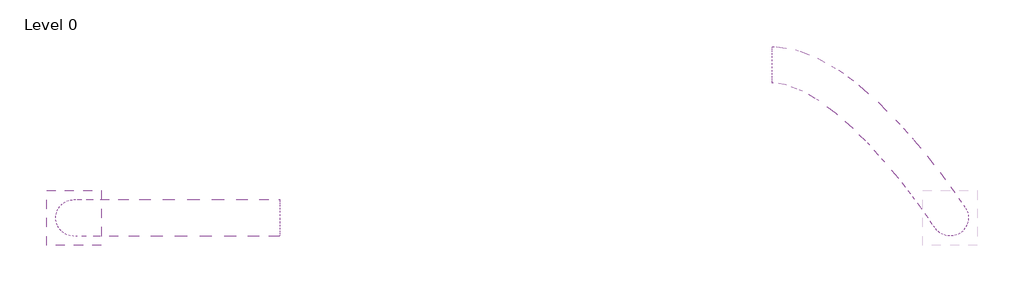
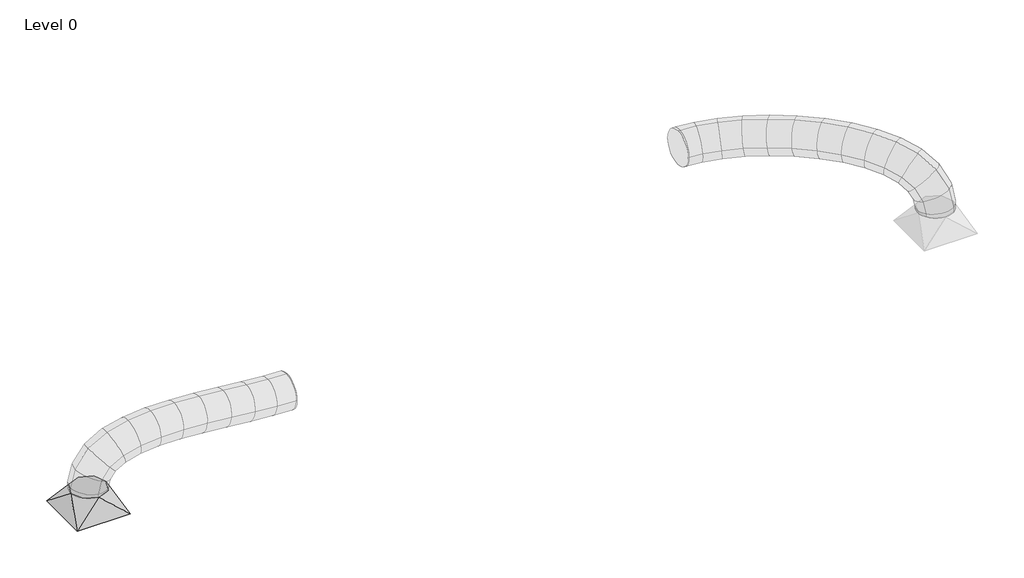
# One storey, part 1 of 2: 2 duct segments, 1 duct fitting.
"""IFC4 building model written with IfcOpenShell, lengths in millimetres."""

from ifc_helpers import new_model, si_unit, frame, origin, place, context, project, spatial, circle_curve, ellipse_curve, transform, mapped, element, save
from ifc_brep_helpers import plane_surface, cylinder_surface, advanced_brep
from components import rectangular_to_round_transition_angle_45_degree_9539f114

model = new_model("IFC4")

# Units and contexts
model_context = context("Model", 3, world=origin())
ifc_project = project(units=[si_unit("LENGTHUNIT", "METRE", prefix="MILLI")], contexts=[model_context])

# Site, building, storey
site = spatial("IfcSite", under=ifc_project)
building = spatial("IfcBuilding", under=site)
storey = spatial("IfcBuildingStorey", under=building, Name="Level 0", Elevation=0.0)

# Duct fitting
placement = place(None, origin())
rectangular_to_round_transition_angle_45_degree_shape = rectangular_to_round_transition_angle_45_degree_9539f114(model_context)
element("IfcDuctFitting", 1, ObjectType="Rectangular to Round Transition - Angle : 45 Degree", at=placement, inside=storey, context=model_context, shape_type="MappedRepresentation", body=[
    mapped(rectangular_to_round_transition_angle_45_degree_shape, transform((2118.6000023, 9114.8000005, 6789.25), x_axis=(0.0, 0.0, 1.0), y_axis=(-1.0, 0.0, 0.0), z_axis=(0.0, -1.0, 0.0))),
])

# Duct segments
element("IfcDuctSegment", 2, ObjectType="Flex - Round", at=placement, inside=storey, context=model_context, shape_type="AdvancedBrep", body=[
    advanced_brep(
    [(6006.3875023, 10070.4750005, 7100.4), (6006.3875023, 9968.8750005, 6998.8), (6006.3875023, 9867.2750005, 7100.4), (6006.3875023, 9968.8750005, 7202.0), (6028.5628095, 10070.4750005, 7100.4), (6022.7080285, 9968.8750005, 6998.8), (6012.285017, 9867.2750005, 7100.4), (6018.139798, 9968.8750005, 7202.0), (7081.4011792, 9168.8958189, 6911.892049), (7049.4958207, 9028.7988236, 6911.892049), (6909.3988254, 9060.7041821, 6911.892049), (6941.3041839, 9200.8011774, 6911.892049), (6135.9318061, 10053.1530182, 7105.2612739), (6116.5968848, 9953.7277871, 7003.0509426), (6083.2273661, 9855.8297775, 7103.612009), (6102.5622874, 9955.2550086, 7205.8223403), (6258.3528569, 10006.5839199, 7117.3482446), (6225.5142727, 9912.2954966, 7013.8046592), (6171.3253873, 9822.3171962, 7112.3101716), (6204.1639715, 9916.6056196, 7215.8537571), (6375.8518486, 9938.6289799, 7133.1280094), (6332.5687029, 9850.3811152, 7028.1817504), (6264.8877434, 9768.2058868, 7124.8753175), (6308.170889, 9856.4537515, 7229.8215764), (6487.9110527, 9855.2780852, 7149.6949871), (6436.4607516, 9773.1050424, 7043.5412854), (6360.8395347, 9696.8358666, 7139.0609545), (6412.2898357, 9779.0089094, 7245.2146563), (6594.2670049, 9761.240224, 7164.48802), (6535.7931179, 9685.2772991, 7057.3574088), (6455.851597, 9612.8280519, 7152.2761675), (6514.3254841, 9688.7909768, 7259.4067787), (6694.0342932, 9660.9989114, 7174.9859789), (6628.855614, 9591.7726352, 7067.1498595), (6547.2167141, 9521.0288319, 7161.8900124), (6612.3953933, 9590.2551081, 7269.7261318), (6785.9578479, 9559.0167212, 7178.6479491), (6713.6756039, 9497.6713096, 7070.5288442), (6632.5973273, 9426.3055374, 7165.2913307), (6704.8795712, 9487.650949, 7273.4104357), (6868.5734551, 9459.7846875, 7172.8930344), (6787.9853941, 9408.4156367, 7065.3525037), (6709.8650219, 9333.4970386, 7159.9089458), (6790.4530829, 9384.8660893, 7267.4494765), (6940.2875379, 9367.8397027, 7155.0819927), (6849.1299812, 9330.0218554, 7050.1665215), (6777.0207467, 9247.3963475, 7143.2300263), (6868.1783035, 9285.2141947, 7248.1454976), (6999.3833994, 9287.819828, 7122.5018618), (6894.1750156, 9269.0277702, 7025.33275), (6832.1885702, 9172.6953073, 7112.8154615), (6937.396954, 9191.487365, 7209.9845733), (7043.9353838, 9224.6315653, 7072.4696817), (6921.5313095, 9230.2282261, 6994.6114468), (6873.7015196, 9113.8173205, 7066.1961383), (6996.1055939, 9108.2206597, 7144.0543733), (7071.8175016, 9183.4909611, 7002.8792077), (6935.9918569, 9208.8914086, 6958.5196277), (6900.0929563, 9074.8762451, 7000.3262283), (7035.918601, 9049.4757976, 7044.6858083), (7081.4011792, 9168.8958189, 6931.2695514), (6941.3041839, 9200.8011774, 6918.8256894), (6909.3988254, 9060.7041821, 6930.7923693), (7049.4958207, 9028.7988236, 6943.2362313)],
    [
        (0, 1, circle_curve(frame((6006.3875023, 9968.8750005, 7100.4), z_axis=(-1.0, 0.0, 0.0), x_axis=(0.0, 1.0, 0.0)), 101.6)),
        (1, 2, circle_curve(frame((6006.3875023, 9968.8750005, 7100.4), z_axis=(-1.0, 0.0, 0.0), x_axis=(0.0, 1.0, 0.0)), 101.6)),
        (2, 3, circle_curve(frame((6006.3875023, 9968.8750005, 7100.4), z_axis=(-1.0, 0.0, 0.0), x_axis=(0.0, 1.0, 0.0)), 101.6)),
        (3, 0, circle_curve(frame((6006.3875023, 9968.8750005, 7100.4), z_axis=(-1.0, 0.0, 0.0), x_axis=(0.0, 1.0, 0.0)), 101.6)),
        (0, 4),
        (4, 5, ellipse_curve(frame((6020.4239132, 9968.8750005, 7100.4), z_axis=(-0.9965565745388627, 0.07983140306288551, -0.022404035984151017), x_axis=(-0.08291558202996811, -0.9594880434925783, 0.2692725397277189)), 101.9510609, 101.6)),
        (5, 1),
        (5, 6, ellipse_curve(frame((6020.4239132, 9968.8750005, 7100.4), z_axis=(-0.9965565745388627, 0.07983140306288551, -0.022404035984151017), x_axis=(-0.08291558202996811, -0.9594880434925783, 0.2692725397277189)), 101.9510609, 101.6)),
        (6, 2),
        (6, 7, ellipse_curve(frame((6020.4239132, 9968.8750005, 7100.4), z_axis=(-0.9965565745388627, 0.07983140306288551, -0.022404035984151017), x_axis=(-0.08291558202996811, -0.9594880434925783, 0.2692725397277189)), 101.9510609, 101.6)),
        (7, 3),
        (7, 4, ellipse_curve(frame((6020.4239132, 9968.8750005, 7100.4), z_axis=(-0.9965565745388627, 0.07983140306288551, -0.022404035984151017), x_axis=(-0.08291558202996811, -0.9594880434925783, 0.2692725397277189)), 101.9510609, 101.6)),
        (8, 9, circle_curve(frame((6995.4000023, 9114.8000005, 6911.892049), z_axis=(0.0, 0.0, -1.0), x_axis=(0.8464682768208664, 0.5324391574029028, 0.0)), 101.6)),
        (9, 10, circle_curve(frame((6995.4000023, 9114.8000005, 6911.892049), z_axis=(0.0, 0.0, -1.0), x_axis=(0.8464682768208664, 0.5324391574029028, 0.0)), 101.6)),
        (10, 11, circle_curve(frame((6995.4000023, 9114.8000005, 6911.892049), z_axis=(0.0, 0.0, -1.0), x_axis=(0.8464682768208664, 0.5324391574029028, 0.0)), 101.6)),
        (11, 8, circle_curve(frame((6995.4000023, 9114.8000005, 6911.892049), z_axis=(0.0, 0.0, -1.0), x_axis=(0.8464682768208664, 0.5324391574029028, 0.0)), 101.6)),
        (4, 12),
        (12, 13, ellipse_curve(frame((6109.5795861, 9954.4913978, 7104.4366415), z_axis=(-0.9637092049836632, 0.25797755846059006, -0.06864508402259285), x_axis=(-0.2668925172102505, -0.9366173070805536, 0.22697225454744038)), 102.1545905, 101.6)),
        (13, 5),
        (13, 14, ellipse_curve(frame((6109.5795861, 9954.4913978, 7104.4366415), z_axis=(-0.9637092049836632, 0.25797755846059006, -0.06864508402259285), x_axis=(-0.2668925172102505, -0.9366173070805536, 0.22697225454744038)), 102.1545905, 101.6)),
        (14, 6),
        (14, 15, ellipse_curve(frame((6109.5795861, 9954.4913978, 7104.4366415), z_axis=(-0.9637092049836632, 0.25797755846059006, -0.06864508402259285), x_axis=(-0.2668925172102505, -0.9366173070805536, 0.22697225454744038)), 102.1545905, 101.6)),
        (15, 7),
        (15, 12, ellipse_curve(frame((6109.5795861, 9954.4913978, 7104.4366415), z_axis=(-0.9637092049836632, 0.25797755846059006, -0.06864508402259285), x_axis=(-0.2668925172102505, -0.9366173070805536, 0.22697225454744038)), 102.1545905, 101.6)),
        (12, 16),
        (16, 17, ellipse_curve(frame((6214.8391221, 9914.4505581, 7114.8292081), z_axis=(-0.8982178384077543, 0.42706411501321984, -0.10402382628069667), x_axis=(-0.4385328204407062, -0.8867767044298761, 0.1460001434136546)), 101.9330645, 101.6)),
        (17, 13),
        (17, 18, ellipse_curve(frame((6214.8391221, 9914.4505581, 7114.8292081), z_axis=(-0.8982178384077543, 0.42706411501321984, -0.10402382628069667), x_axis=(-0.4385328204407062, -0.8867767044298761, 0.1460001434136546)), 101.9330645, 101.6)),
        (18, 14),
        (18, 19, ellipse_curve(frame((6214.8391221, 9914.4505581, 7114.8292081), z_axis=(-0.8982178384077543, 0.42706411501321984, -0.10402382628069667), x_axis=(-0.4385328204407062, -0.8867767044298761, 0.1460001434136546)), 101.9330645, 101.6)),
        (19, 15),
        (19, 16, ellipse_curve(frame((6214.8391221, 9914.4505581, 7114.8292081), z_axis=(-0.8982178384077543, 0.42706411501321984, -0.10402382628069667), x_axis=(-0.4385328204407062, -0.8867767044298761, 0.1460001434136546)), 101.9330645, 101.6)),
        (16, 20),
        (20, 21, ellipse_curve(frame((6320.369796, 9853.4174333, 7129.0016634), z_axis=(-0.8296834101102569, 0.5458722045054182, -0.11682882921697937), x_axis=(-0.5515163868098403, -0.8339169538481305, 0.020302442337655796)), 101.7664973, 101.6)),
        (21, 17),
        (21, 22, ellipse_curve(frame((6320.369796, 9853.4174333, 7129.0016634), z_axis=(-0.8296834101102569, 0.5458722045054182, -0.11682882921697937), x_axis=(-0.5515163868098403, -0.8339169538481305, 0.020302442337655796)), 101.7664973, 101.6)),
        (22, 18),
        (22, 23, ellipse_curve(frame((6320.369796, 9853.4174333, 7129.0016634), z_axis=(-0.8296834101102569, 0.5458722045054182, -0.11682882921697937), x_axis=(-0.5515163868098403, -0.8339169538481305, 0.020302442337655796)), 101.7664973, 101.6)),
        (23, 19),
        (23, 20, ellipse_curve(frame((6320.369796, 9853.4174333, 7129.0016634), z_axis=(-0.8296834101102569, 0.5458722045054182, -0.11682882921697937), x_axis=(-0.5515163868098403, -0.8339169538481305, 0.020302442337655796)), 101.7664973, 101.6)),
        (20, 24),
        (24, 25, ellipse_curve(frame((6424.3752937, 9776.0569759, 7144.3779708), z_axis=(-0.7716567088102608, 0.6263106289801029, -0.11081931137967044), x_axis=(-0.6069045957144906, -0.7771764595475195, -0.16632366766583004)), 101.692167, 101.6)),
        (25, 21),
        (25, 26, ellipse_curve(frame((6424.3752937, 9776.0569759, 7144.3779708), z_axis=(-0.7716567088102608, 0.6263106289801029, -0.11081931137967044), x_axis=(-0.6069045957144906, -0.7771764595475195, -0.16632366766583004)), 101.692167, 101.6)),
        (26, 22),
        (26, 27, ellipse_curve(frame((6424.3752937, 9776.0569759, 7144.3779708), z_axis=(-0.7716567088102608, 0.6263106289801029, -0.11081931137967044), x_axis=(-0.6069045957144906, -0.7771764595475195, -0.16632366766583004)), 101.692167, 101.6)),
        (27, 23),
        (27, 24, ellipse_curve(frame((6424.3752937, 9776.0569759, 7144.3779708), z_axis=(-0.7716567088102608, 0.6263106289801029, -0.11081931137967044), x_axis=(-0.6069045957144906, -0.7771764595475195, -0.16632366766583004)), 101.692167, 101.6)),
        (24, 28),
        (28, 29, ellipse_curve(frame((6525.059301, 9687.0341379, 7158.3820937), z_axis=(-0.7247541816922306, 0.6832499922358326, -0.08888658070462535), x_axis=(-0.5937968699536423, -0.6848196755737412, -0.4224065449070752)), 101.6624813, 101.6)),
        (29, 25),
        (29, 30, ellipse_curve(frame((6525.059301, 9687.0341379, 7158.3820937), z_axis=(-0.7247541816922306, 0.6832499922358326, -0.08888658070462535), x_axis=(-0.5937968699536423, -0.6848196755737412, -0.4224065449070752)), 101.6624813, 101.6)),
        (30, 26),
        (30, 31, ellipse_curve(frame((6525.059301, 9687.0341379, 7158.3820937), z_axis=(-0.7247541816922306, 0.6832499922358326, -0.08888658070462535), x_axis=(-0.5937968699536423, -0.6848196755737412, -0.4224065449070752)), 101.6624813, 101.6)),
        (31, 27),
        (31, 28, ellipse_curve(frame((6525.059301, 9687.0341379, 7158.3820937), z_axis=(-0.7247541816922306, 0.6832499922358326, -0.08888658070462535), x_axis=(-0.5937968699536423, -0.6848196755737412, -0.4224065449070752)), 101.6624813, 101.6)),
        (28, 32),
        (32, 33, ellipse_curve(frame((6620.6255037, 9591.0138717, 7168.4379956), z_axis=(-0.6867933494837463, 0.725105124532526, -0.05037314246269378), x_axis=(-0.4996360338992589, -0.5212978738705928, -0.6918181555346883)), 101.6595752, 101.6)),
        (33, 29),
        (33, 34, ellipse_curve(frame((6620.6255037, 9591.0138717, 7168.4379956), z_axis=(-0.6867933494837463, 0.725105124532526, -0.05037314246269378), x_axis=(-0.4996360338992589, -0.5212978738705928, -0.6918181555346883)), 101.6595752, 101.6)),
        (34, 30),
        (34, 35, ellipse_curve(frame((6620.6255037, 9591.0138717, 7168.4379956), z_axis=(-0.6867933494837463, 0.725105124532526, -0.05037314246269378), x_axis=(-0.4996360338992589, -0.5212978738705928, -0.6918181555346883)), 101.6595752, 101.6)),
        (35, 31),
        (35, 32, ellipse_curve(frame((6620.6255037, 9591.0138717, 7168.4379956), z_axis=(-0.6867933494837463, 0.725105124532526, -0.05037314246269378), x_axis=(-0.4996360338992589, -0.5212978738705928, -0.6918181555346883)), 101.6595752, 101.6)),
        (32, 36),
        (36, 37, ellipse_curve(frame((6709.2775876, 9492.6611293, 7171.9696399), z_axis=(-0.6547825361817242, 0.7557644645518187, 0.008938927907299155), x_axis=(-0.370149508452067, -0.31033541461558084, -0.8756033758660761)), 101.6840509, 101.6)),
        (37, 33),
        (37, 38, ellipse_curve(frame((6709.2775876, 9492.6611293, 7171.9696399), z_axis=(-0.6547825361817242, 0.7557644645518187, 0.008938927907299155), x_axis=(-0.370149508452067, -0.31033541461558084, -0.8756033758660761)), 101.6840509, 101.6)),
        (38, 34),
        (38, 39, ellipse_curve(frame((6709.2775876, 9492.6611293, 7171.9696399), z_axis=(-0.6547825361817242, 0.7557644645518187, 0.008938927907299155), x_axis=(-0.370149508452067, -0.31033541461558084, -0.8756033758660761)), 101.6840509, 101.6)),
        (39, 35),
        (39, 36, ellipse_curve(frame((6709.2775876, 9492.6611293, 7171.9696399), z_axis=(-0.6547825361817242, 0.7557644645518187, 0.008938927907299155), x_axis=(-0.370149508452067, -0.31033541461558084, -0.8756033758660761)), 101.6840509, 101.6)),
        (36, 40),
        (40, 41, ellipse_curve(frame((6789.2192385, 9396.640863, 7166.4009901), z_axis=(-0.6245519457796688, 0.7748212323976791, 0.09791284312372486), x_axis=(-0.27990848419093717, -0.10503419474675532, -0.9542636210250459)), 101.7584648, 101.6)),
        (41, 37),
        (41, 42, ellipse_curve(frame((6789.2192385, 9396.640863, 7166.4009901), z_axis=(-0.6245519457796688, 0.7748212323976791, 0.09791284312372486), x_axis=(-0.27990848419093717, -0.10503419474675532, -0.9542636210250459)), 101.7584648, 101.6)),
        (42, 38),
        (42, 43, ellipse_curve(frame((6789.2192385, 9396.640863, 7166.4009901), z_axis=(-0.6245519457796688, 0.7748212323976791, 0.09791284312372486), x_axis=(-0.27990848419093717, -0.10503419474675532, -0.9542636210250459)), 101.7584648, 101.6)),
        (43, 39),
        (43, 40, ellipse_curve(frame((6789.2192385, 9396.640863, 7166.4009901), z_axis=(-0.6245519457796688, 0.7748212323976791, 0.09791284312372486), x_axis=(-0.27990848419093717, -0.10503419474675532, -0.9542636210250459)), 101.7584648, 101.6)),
        (40, 44),
        (44, 45, ellipse_curve(frame((6858.6541423, 9307.6180251, 7149.1560095), z_axis=(-0.588310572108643, 0.7746609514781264, 0.23192904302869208), x_axis=(-0.26035222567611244, 0.09008567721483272, -0.9613018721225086)), 101.9547891, 101.6)),
        (45, 41),
        (45, 46, ellipse_curve(frame((6858.6541423, 9307.6180251, 7149.1560095), z_axis=(-0.588310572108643, 0.7746609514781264, 0.23192904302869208), x_axis=(-0.26035222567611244, 0.09008567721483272, -0.9613018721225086)), 101.9547891, 101.6)),
        (46, 42),
        (46, 47, ellipse_curve(frame((6858.6541423, 9307.6180251, 7149.1560095), z_axis=(-0.588310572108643, 0.7746609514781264, 0.23192904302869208), x_axis=(-0.26035222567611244, 0.09008567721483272, -0.9613018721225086)), 101.9547891, 101.6)),
        (47, 43),
        (47, 44, ellipse_curve(frame((6858.6541423, 9307.6180251, 7149.1560095), z_axis=(-0.588310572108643, 0.7746609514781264, 0.23192904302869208), x_axis=(-0.26035222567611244, 0.09008567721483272, -0.9613018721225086)), 101.9547891, 101.6)),
        (44, 48),
        (48, 49, ellipse_curve(frame((6915.7859848, 9230.2575676, 7117.6586617), z_axis=(-0.528583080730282, 0.7314065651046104, 0.43086466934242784), x_axis=(-0.313262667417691, 0.3036735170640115, -0.8998049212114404)), 102.4552326, 101.6)),
        (49, 45),
        (49, 50, ellipse_curve(frame((6915.7859848, 9230.2575676, 7117.6586617), z_axis=(-0.528583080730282, 0.7314065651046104, 0.43086466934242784), x_axis=(-0.313262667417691, 0.3036735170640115, -0.8998049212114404)), 102.4552326, 101.6)),
        (50, 46),
        (50, 51, ellipse_curve(frame((6915.7859848, 9230.2575676, 7117.6586617), z_axis=(-0.528583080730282, 0.7314065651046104, 0.43086466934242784), x_axis=(-0.313262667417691, 0.3036735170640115, -0.8998049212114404)), 102.4552326, 101.6)),
        (51, 47),
        (51, 48, ellipse_curve(frame((6915.7859848, 9230.2575676, 7117.6586617), z_axis=(-0.528583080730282, 0.7314065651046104, 0.43086466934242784), x_axis=(-0.313262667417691, 0.3036735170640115, -0.8998049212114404)), 102.4552326, 101.6)),
        (48, 52),
        (52, 53, ellipse_curve(frame((6958.8184517, 9169.2244429, 7069.33291), z_axis=(-0.41219711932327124, 0.5941161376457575, 0.6907384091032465), x_axis=(-0.4214099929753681, 0.547846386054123, -0.7226880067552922)), 103.4273189, 101.6)),
        (53, 49),
        (53, 54, ellipse_curve(frame((6958.8184517, 9169.2244429, 7069.33291), z_axis=(-0.41219711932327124, 0.5941161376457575, 0.6907384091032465), x_axis=(-0.4214099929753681, 0.547846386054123, -0.7226880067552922)), 103.4273189, 101.6)),
        (54, 50),
        (54, 55, ellipse_curve(frame((6958.8184517, 9169.2244429, 7069.33291), z_axis=(-0.41219711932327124, 0.5941161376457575, 0.6907384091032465), x_axis=(-0.4214099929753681, 0.547846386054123, -0.7226880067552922)), 103.4273189, 101.6)),
        (55, 51),
        (55, 52, ellipse_curve(frame((6958.8184517, 9169.2244429, 7069.33291), z_axis=(-0.41219711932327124, 0.5941161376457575, 0.6907384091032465), x_axis=(-0.4214099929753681, 0.547846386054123, -0.7226880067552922)), 103.4273189, 101.6)),
        (52, 56),
        (56, 57, ellipse_curve(frame((6985.955229, 9129.1836031, 7001.602718), z_axis=(-0.23223866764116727, 0.345810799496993, 0.9091095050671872), x_axis=(-0.5175713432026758, 0.7474150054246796, -0.41652216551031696)), 103.4722856, 101.6)),
        (57, 53),
        (57, 58, ellipse_curve(frame((6985.955229, 9129.1836031, 7001.602718), z_axis=(-0.23223866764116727, 0.345810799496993, 0.9091095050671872), x_axis=(-0.5175713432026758, 0.7474150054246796, -0.41652216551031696)), 103.4722856, 101.6)),
        (58, 54),
        (58, 59, ellipse_curve(frame((6985.955229, 9129.1836031, 7001.602718), z_axis=(-0.23223866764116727, 0.345810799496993, 0.9091095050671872), x_axis=(-0.5175713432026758, 0.7474150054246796, -0.41652216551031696)), 103.4722856, 101.6)),
        (59, 55),
        (59, 56, ellipse_curve(frame((6985.955229, 9129.1836031, 7001.602718), z_axis=(-0.23223866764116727, 0.345810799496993, 0.9091095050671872), x_axis=(-0.5175713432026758, 0.7474150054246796, -0.41652216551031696)), 103.4722856, 101.6)),
        (56, 60),
        (60, 61, ellipse_curve(frame((6995.4000023, 9114.8000005, 6931.0309603), z_axis=(-0.06547907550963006, 0.09971917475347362, 0.9928587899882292), x_axis=(-0.544961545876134, 0.8299310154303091, -0.11929552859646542)), 102.3307655, 101.6)),
        (61, 57),
        (61, 62, ellipse_curve(frame((6995.4000023, 9114.8000005, 6931.0309603), z_axis=(-0.06547907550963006, 0.09971917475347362, 0.9928587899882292), x_axis=(-0.544961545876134, 0.8299310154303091, -0.11929552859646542)), 102.3307655, 101.6)),
        (62, 58),
        (62, 63, ellipse_curve(frame((6995.4000023, 9114.8000005, 6931.0309603), z_axis=(-0.06547907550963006, 0.09971917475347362, 0.9928587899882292), x_axis=(-0.544961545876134, 0.8299310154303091, -0.11929552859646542)), 102.3307655, 101.6)),
        (63, 59),
        (63, 60, ellipse_curve(frame((6995.4000023, 9114.8000005, 6931.0309603), z_axis=(-0.06547907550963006, 0.09971917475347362, 0.9928587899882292), x_axis=(-0.544961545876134, 0.8299310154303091, -0.11929552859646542)), 102.3307655, 101.6)),
        (60, 8),
        (11, 61),
        (10, 62),
        (9, 63),
    ],
    [
        plane_surface(frame((6006.3875023, 9968.8750005, 6998.8), z_axis=(-1.0, 0.0, 0.0), x_axis=(0.0, 1.0, 0.0))),
        cylinder_surface(frame((6006.3875023, 9968.8750005, 7100.4), z_axis=(-1.0, 0.0, 0.0), x_axis=(0.0, 1.0, 0.0)), 101.6),
        plane_surface(frame((6995.4000023, 9013.2000005, 6911.892049), z_axis=(0.0, 0.0, -1.0), x_axis=(-1.0, 0.0, 0.0))),
        cylinder_surface(frame((6020.4239132, 9968.8750005, 7100.4), z_axis=(-0.986250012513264, 0.15911301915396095, -0.04465377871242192), x_axis=(0.15911301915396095, 0.9872538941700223, 0.003577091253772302)), 101.6),
        cylinder_surface(frame((6109.5795861, 9954.4913978, 7104.4366415), z_axis=(-0.9307045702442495, 0.3540410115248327, -0.0918910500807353), x_axis=(0.3539848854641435, 0.9350881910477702, 0.0174578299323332)), 101.6),
        cylinder_surface(frame((6214.8391221, 9914.4505581, 7114.8292081), z_axis=(-0.8598612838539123, 0.4972963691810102, -0.11547681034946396), x_axis=(0.4969291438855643, 0.8671243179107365, 0.03401239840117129)), 101.6),
        cylinder_surface(frame((6320.369796, 9853.4174333, 7129.0016634), z_axis=(-0.796790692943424, 0.592661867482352, -0.11779856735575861), x_axis=(0.5916318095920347, 0.804816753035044, 0.047347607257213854)), 101.6),
        cylinder_surface(frame((6424.3752937, 9776.0569759, 7144.3779708), z_axis=(-0.7451239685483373, 0.658824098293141, -0.1036391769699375), x_axis=(0.6568855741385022, 0.7518539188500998, 0.05671884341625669)), 101.6),
        cylinder_surface(frame((6525.059301, 9687.0341379, 7158.3820937), z_axis=(-0.703493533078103, 0.7068360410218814, -0.07402472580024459), x_axis=(0.7041135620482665, 0.707330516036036, 0.06251106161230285)), 101.6),
        cylinder_surface(frame((6620.6255037, 9591.0138717, 7168.4379956), z_axis=(-0.6692882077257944, 0.7425243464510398, -0.026662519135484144), x_axis=(0.740046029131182, 0.6693936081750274, 0.06514654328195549)), 101.6),
        cylinder_surface(frame((6709.2775876, 9492.6611293, 7171.9696399), z_axis=(-0.6391943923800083, 0.7677551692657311, 0.04452559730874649), x_axis=(0.7687478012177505, 0.6362653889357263, 0.06475471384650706)), 101.6),
        cylinder_surface(frame((6789.2192385, 9396.640863, 7166.4009901), z_axis=(-0.6079643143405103, 0.7794740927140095, 0.15099513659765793), x_axis=(0.7927422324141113, 0.606497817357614, 0.0609930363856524)), 101.6),
        cylinder_surface(frame((6858.6541423, 9307.6180251, 7149.1560095), z_axis=(-0.5645623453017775, 0.7644563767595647, 0.3112487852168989), x_axis=(0.813447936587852, 0.5792334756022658, 0.052830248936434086)), 101.6),
        cylinder_surface(frame((6915.7859848, 9230.2575676, 7117.6586617), z_axis=(-0.48377924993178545, 0.6861460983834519, 0.5432873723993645), x_axis=(0.8308309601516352, 0.5551803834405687, 0.03866080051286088)), 101.6),
        cylinder_surface(frame((6958.8184517, 9169.2244429, 7069.33291), z_axis=(-0.3260498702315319, 0.481092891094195, 0.8137819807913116), x_axis=(0.8424384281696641, 0.5384500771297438, 0.019209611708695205)), 101.6),
        cylinder_surface(frame((6985.955229, 9129.1836031, 7001.602718), z_axis=(-0.13002295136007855, 0.1980141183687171, 0.9715371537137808), x_axis=(0.8461629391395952, 0.5329041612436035, 0.004629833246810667)), 101.6),
        cylinder_surface(frame((6995.4000023, 9114.8000005, 6931.0309603), z_axis=(0.0, 0.0, 1.0), x_axis=(0.8464682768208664, 0.5324391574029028, 0.0)), 101.6),
    ],
    [
        (0, [[1, 2, 3, 4]]),
        (1, [[-1, 5, 6, 7]]),
        (1, [[-2, -7, 8, 9]]),
        (1, [[-3, -9, 10, 11]]),
        (1, [[-4, -11, 12, -5]]),
        (2, [[13, 14, 15, 16]]),
        (3, [[-6, 17, 18, 19]]),
        (3, [[-8, -19, 20, 21]]),
        (3, [[-10, -21, 22, 23]]),
        (3, [[-12, -23, 24, -17]]),
        (4, [[-18, 25, 26, 27]]),
        (4, [[-20, -27, 28, 29]]),
        (4, [[-22, -29, 30, 31]]),
        (4, [[-24, -31, 32, -25]]),
        (5, [[-26, 33, 34, 35]]),
        (5, [[-28, -35, 36, 37]]),
        (5, [[-30, -37, 38, 39]]),
        (5, [[-32, -39, 40, -33]]),
        (6, [[-34, 41, 42, 43]]),
        (6, [[-36, -43, 44, 45]]),
        (6, [[-38, -45, 46, 47]]),
        (6, [[-40, -47, 48, -41]]),
        (7, [[-42, 49, 50, 51]]),
        (7, [[-44, -51, 52, 53]]),
        (7, [[-46, -53, 54, 55]]),
        (7, [[-48, -55, 56, -49]]),
        (8, [[-50, 57, 58, 59]]),
        (8, [[-52, -59, 60, 61]]),
        (8, [[-54, -61, 62, 63]]),
        (8, [[-56, -63, 64, -57]]),
        (9, [[-58, 65, 66, 67]]),
        (9, [[-60, -67, 68, 69]]),
        (9, [[-62, -69, 70, 71]]),
        (9, [[-64, -71, 72, -65]]),
        (10, [[-66, 73, 74, 75]]),
        (10, [[-68, -75, 76, 77]]),
        (10, [[-70, -77, 78, 79]]),
        (10, [[-72, -79, 80, -73]]),
        (11, [[-74, 81, 82, 83]]),
        (11, [[-76, -83, 84, 85]]),
        (11, [[-78, -85, 86, 87]]),
        (11, [[-80, -87, 88, -81]]),
        (12, [[-82, 89, 90, 91]]),
        (12, [[-84, -91, 92, 93]]),
        (12, [[-86, -93, 94, 95]]),
        (12, [[-88, -95, 96, -89]]),
        (13, [[-90, 97, 98, 99]]),
        (13, [[-92, -99, 100, 101]]),
        (13, [[-94, -101, 102, 103]]),
        (13, [[-96, -103, 104, -97]]),
        (14, [[-98, 105, 106, 107]]),
        (14, [[-100, -107, 108, 109]]),
        (14, [[-102, -109, 110, 111]]),
        (14, [[-104, -111, 112, -105]]),
        (15, [[-106, 113, 114, 115]]),
        (15, [[-108, -115, 116, 117]]),
        (15, [[-110, -117, 118, 119]]),
        (15, [[-112, -119, 120, -113]]),
        (16, [[-114, 121, -16, 122]]),
        (16, [[-116, -122, -15, 123]]),
        (16, [[-118, -123, -14, 124]]),
        (16, [[-120, -124, -13, -121]]),
    ],
),
])
element("IfcDuctSegment", 3, ObjectType="Flex - Round", at=placement, inside=storey, context=model_context, shape_type="AdvancedBrep", body=[
    advanced_brep(
    [(3263.1875023, 9013.2000005, 7100.4), (3263.1875023, 9114.8000005, 6998.8), (3263.1875023, 9216.4000005, 7100.4), (3263.1875023, 9114.8000005, 7202.0), (3259.3295058, 9013.2000005, 7100.4), (3257.3321548, 9114.8000005, 6998.8), (3259.3295058, 9216.4000005, 7100.4), (3261.3268568, 9114.8000005, 7202.0), (2118.6000023, 9013.2000005, 6911.892049), (2017.0000023, 9114.8000005, 6911.892049), (2118.6000023, 9216.4000005, 6911.892049), (2220.2000023, 9114.8000005, 6911.892049), (3149.3761625, 9013.2000005, 7104.7248096), (3143.147116, 9114.8000005, 7003.2912555), (3149.3761625, 9216.4000005, 7104.7248096), (3155.6052091, 9114.8000005, 7206.1583638), (3022.245915, 9013.2000005, 7115.3461478), (3013.0157506, 9114.8000005, 7014.1633278), (3022.245915, 9216.4000005, 7115.3461478), (3031.4760793, 9114.8000005, 7216.5289679), (2886.8869242, 9013.2000005, 7128.7343787), (2877.2747779, 9114.8000005, 7027.5893401), (2886.8869242, 9216.4000005, 7128.7343787), (2896.4990705, 9114.8000005, 7229.8794173), (2748.3893549, 9013.2000005, 7141.3598663), (2740.6813448, 9114.8000005, 7040.0412459), (2748.3893549, 9216.4000005, 7141.3598663), (2756.097365, 9114.8000005, 7242.6784866), (2611.8433717, 9013.2000005, 7149.6929746), (2608.5457531, 9114.8000005, 7048.1051976), (2611.8433717, 9216.4000005, 7149.6929746), (2615.1409904, 9114.8000005, 7251.2807517), (2482.3391394, 9013.2000005, 7150.2040679), (2486.82101, 9114.8000005, 7048.5855888), (2482.3391394, 9216.4000005, 7150.2040679), (2477.8572688, 9114.8000005, 7251.8225469), (2364.9668225, 9013.2000005, 7139.36351), (2382.3860887, 9114.8000005, 7038.9399344), (2364.9668225, 9216.4000005, 7139.36351), (2347.5475562, 9114.8000005, 7239.7870856), (2264.8165856, 9013.2000005, 7113.6416651), (2303.175591, 9114.8000005, 7018.5960969), (2264.8165856, 9216.4000005, 7113.6416651), (2226.4575802, 9114.8000005, 7208.6872333), (2186.9785936, 9013.2000005, 7069.5088973), (2255.1453081, 9114.8000005, 6991.3637741), (2186.9785936, 9216.4000005, 7069.5088973), (2118.811879, 9114.8000005, 7147.6540204), (2136.5430109, 9013.2000005, 7003.4355705), (2230.0486398, 9114.8000005, 6958.4857884), (2136.5430109, 9216.4000005, 7003.4355705), (2043.0373821, 9114.8000005, 7048.3853526), (2118.6000023, 9013.2000005, 6931.4343295), (2220.2000023, 9114.8000005, 6918.9654307), (2118.6000023, 9216.4000005, 6931.4343295), (2017.0000023, 9114.8000005, 6943.9032283)],
    [
        (0, 1, circle_curve(frame((3263.1875023, 9114.8000005, 7100.4), z_axis=(1.0, 0.0, 0.0), x_axis=(0.0, -1.0, 0.0)), 101.6)),
        (1, 2, circle_curve(frame((3263.1875023, 9114.8000005, 7100.4), z_axis=(1.0, 0.0, 0.0), x_axis=(0.0, -1.0, 0.0)), 101.6)),
        (2, 3, circle_curve(frame((3263.1875023, 9114.8000005, 7100.4), z_axis=(1.0, 0.0, 0.0), x_axis=(0.0, -1.0, 0.0)), 101.6)),
        (3, 0, circle_curve(frame((3263.1875023, 9114.8000005, 7100.4), z_axis=(1.0, 0.0, 0.0), x_axis=(0.0, -1.0, 0.0)), 101.6)),
        (0, 4),
        (4, 5, ellipse_curve(frame((3259.3295058, 9114.8000005, 7100.4), z_axis=(0.9998068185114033, 0.0, -0.019655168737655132), x_axis=(0.019655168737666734, 0.0, 0.9998068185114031)), 101.619631, 101.6)),
        (5, 1),
        (5, 6, ellipse_curve(frame((3259.3295058, 9114.8000005, 7100.4), z_axis=(0.9998068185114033, 0.0, -0.019655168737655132), x_axis=(0.019655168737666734, 0.0, 0.9998068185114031)), 101.619631, 101.6)),
        (6, 2),
        (6, 7, ellipse_curve(frame((3259.3295058, 9114.8000005, 7100.4), z_axis=(0.9998068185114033, 0.0, -0.019655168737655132), x_axis=(0.019655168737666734, 0.0, 0.9998068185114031)), 101.619631, 101.6)),
        (7, 3),
        (7, 4, ellipse_curve(frame((3259.3295058, 9114.8000005, 7100.4), z_axis=(0.9998068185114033, 0.0, -0.019655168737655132), x_axis=(0.019655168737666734, 0.0, 0.9998068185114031)), 101.619631, 101.6)),
        (8, 9, circle_curve(frame((2118.6000023, 9114.8000005, 6911.892049), z_axis=(0.0, 0.0, -1.0), x_axis=(0.0, -1.0, 0.0)), 101.6)),
        (9, 10, circle_curve(frame((2118.6000023, 9114.8000005, 6911.892049), z_axis=(0.0, 0.0, -1.0), x_axis=(0.0, -1.0, 0.0)), 101.6)),
        (10, 11, circle_curve(frame((2118.6000023, 9114.8000005, 6911.892049), z_axis=(0.0, 0.0, -1.0), x_axis=(0.0, -1.0, 0.0)), 101.6)),
        (11, 8, circle_curve(frame((2118.6000023, 9114.8000005, 6911.892049), z_axis=(0.0, 0.0, -1.0), x_axis=(0.0, -1.0, 0.0)), 101.6)),
        (4, 12),
        (12, 13, ellipse_curve(frame((3149.3761625, 9114.8000005, 7104.7248096), z_axis=(0.9981197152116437, 0.0, -0.06129464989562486), x_axis=(0.0612946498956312, 0.0, 0.9981197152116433)), 101.6246374, 101.6)),
        (13, 5),
        (13, 14, ellipse_curve(frame((3149.3761625, 9114.8000005, 7104.7248096), z_axis=(0.9981197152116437, 0.0, -0.06129464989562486), x_axis=(0.0612946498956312, 0.0, 0.9981197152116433)), 101.6246374, 101.6)),
        (14, 6),
        (14, 15, ellipse_curve(frame((3149.3761625, 9114.8000005, 7104.7248096), z_axis=(0.9981197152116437, 0.0, -0.06129464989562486), x_axis=(0.0612946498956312, 0.0, 0.9981197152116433)), 101.6246374, 101.6)),
        (15, 7),
        (15, 12, ellipse_curve(frame((3149.3761625, 9114.8000005, 7104.7248096), z_axis=(0.9981197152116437, 0.0, -0.06129464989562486), x_axis=(0.0612946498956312, 0.0, 0.9981197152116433)), 101.6246374, 101.6)),
        (12, 16),
        (16, 17, ellipse_curve(frame((3022.245915, 9114.8000005, 7115.3461478), z_axis=(0.9958650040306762, 0.0, -0.09084543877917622), x_axis=(0.09084543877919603, 0.0, 0.9958650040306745)), 101.6029478, 101.6)),
        (17, 13),
        (17, 18, ellipse_curve(frame((3022.245915, 9114.8000005, 7115.3461478), z_axis=(0.9958650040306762, 0.0, -0.09084543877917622), x_axis=(0.09084543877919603, 0.0, 0.9958650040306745)), 101.6029478, 101.6)),
        (18, 14),
        (18, 19, ellipse_curve(frame((3022.245915, 9114.8000005, 7115.3461478), z_axis=(0.9958650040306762, 0.0, -0.09084543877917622), x_axis=(0.09084543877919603, 0.0, 0.9958650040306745)), 101.6029478, 101.6)),
        (19, 15),
        (19, 16, ellipse_curve(frame((3022.245915, 9114.8000005, 7115.3461478), z_axis=(0.9958650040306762, 0.0, -0.09084543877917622), x_axis=(0.09084543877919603, 0.0, 0.9958650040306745)), 101.6029478, 101.6)),
        (16, 20),
        (20, 21, ellipse_curve(frame((2886.8869242, 9114.8000005, 7128.7343787), z_axis=(0.9955146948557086, 0.0, -0.09460704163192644), x_axis=(-0.09460704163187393, -1.0366990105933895e-12, -0.9955146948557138)), 101.6007489, 101.6)),
        (21, 17),
        (21, 22, ellipse_curve(frame((2886.8869242, 9114.8000005, 7128.7343787), z_axis=(0.9955146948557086, 0.0, -0.09460704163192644), x_axis=(-0.09460704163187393, -1.0366990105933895e-12, -0.9955146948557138)), 101.6007489, 101.6)),
        (22, 18),
        (22, 23, ellipse_curve(frame((2886.8869242, 9114.8000005, 7128.7343787), z_axis=(0.9955146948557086, 0.0, -0.09460704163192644), x_axis=(-0.09460704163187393, -1.0366990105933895e-12, -0.9955146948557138)), 101.6007489, 101.6)),
        (23, 19),
        (23, 20, ellipse_curve(frame((2886.8869242, 9114.8000005, 7128.7343787), z_axis=(0.9955146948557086, 0.0, -0.09460704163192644), x_axis=(-0.09460704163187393, -1.0366990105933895e-12, -0.9955146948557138)), 101.6007489, 101.6)),
        (20, 24),
        (24, 25, ellipse_curve(frame((2748.3893549, 9114.8000005, 7141.3598663), z_axis=(0.9971186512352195, 0.0, -0.07585773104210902), x_axis=(-0.0758577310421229, 0.0, -0.9971186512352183)), 101.6113982, 101.6)),
        (25, 21),
        (25, 26, ellipse_curve(frame((2748.3893549, 9114.8000005, 7141.3598663), z_axis=(0.9971186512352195, 0.0, -0.07585773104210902), x_axis=(-0.0758577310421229, 0.0, -0.9971186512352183)), 101.6113982, 101.6)),
        (26, 22),
        (26, 27, ellipse_curve(frame((2748.3893549, 9114.8000005, 7141.3598663), z_axis=(0.9971186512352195, 0.0, -0.07585773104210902), x_axis=(-0.0758577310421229, 0.0, -0.9971186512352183)), 101.6113982, 101.6)),
        (27, 23),
        (27, 24, ellipse_curve(frame((2748.3893549, 9114.8000005, 7141.3598663), z_axis=(0.9971186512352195, 0.0, -0.07585773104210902), x_axis=(-0.0758577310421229, 0.0, -0.9971186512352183)), 101.6113982, 101.6)),
        (24, 28),
        (28, 29, ellipse_curve(frame((2611.8433717, 9114.8000005, 7149.6929746), z_axis=(0.9994735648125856, 0.0, -0.032443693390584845), x_axis=(-0.03244369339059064, 0.0, -0.9994735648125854)), 101.6412846, 101.6)),
        (29, 25),
        (29, 30, ellipse_curve(frame((2611.8433717, 9114.8000005, 7149.6929746), z_axis=(0.9994735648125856, 0.0, -0.032443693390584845), x_axis=(-0.03244369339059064, 0.0, -0.9994735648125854)), 101.6412846, 101.6)),
        (30, 26),
        (30, 31, ellipse_curve(frame((2611.8433717, 9114.8000005, 7149.6929746), z_axis=(0.9994735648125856, 0.0, -0.032443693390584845), x_axis=(-0.03244369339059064, 0.0, -0.9994735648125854)), 101.6412846, 101.6)),
        (31, 27),
        (31, 28, ellipse_curve(frame((2611.8433717, 9114.8000005, 7149.6929746), z_axis=(0.9994735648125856, 0.0, -0.032443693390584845), x_axis=(-0.03244369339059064, 0.0, -0.9994735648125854)), 101.6412846, 101.6)),
        (28, 32),
        (32, 33, ellipse_curve(frame((2482.3391394, 9114.8000005, 7150.2040679), z_axis=(0.9990287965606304, 0.0, 0.04406204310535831), x_axis=(0.04406204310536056, 0.0, -0.9990287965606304)), 101.7172672, 101.6)),
        (33, 29),
        (33, 34, ellipse_curve(frame((2482.3391394, 9114.8000005, 7150.2040679), z_axis=(0.9990287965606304, 0.0, 0.04406204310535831), x_axis=(0.04406204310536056, 0.0, -0.9990287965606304)), 101.7172672, 101.6)),
        (34, 30),
        (34, 35, ellipse_curve(frame((2482.3391394, 9114.8000005, 7150.2040679), z_axis=(0.9990287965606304, 0.0, 0.04406204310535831), x_axis=(0.04406204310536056, 0.0, -0.9990287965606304)), 101.7172672, 101.6)),
        (35, 31),
        (35, 32, ellipse_curve(frame((2482.3391394, 9114.8000005, 7150.2040679), z_axis=(0.9990287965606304, 0.0, 0.04406204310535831), x_axis=(0.04406204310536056, 0.0, -0.9990287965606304)), 101.7172672, 101.6)),
        (32, 36),
        (36, 37, ellipse_curve(frame((2364.9668225, 9114.8000005, 7139.36351), z_axis=(0.98528735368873, 0.0, 0.17090591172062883), x_axis=(0.17090591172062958, 0.0, -0.9852873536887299)), 101.9231347, 101.6)),
        (37, 33),
        (37, 38, ellipse_curve(frame((2364.9668225, 9114.8000005, 7139.36351), z_axis=(0.98528735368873, 0.0, 0.17090591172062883), x_axis=(0.17090591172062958, 0.0, -0.9852873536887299)), 101.9231347, 101.6)),
        (38, 34),
        (38, 39, ellipse_curve(frame((2364.9668225, 9114.8000005, 7139.36351), z_axis=(0.98528735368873, 0.0, 0.17090591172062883), x_axis=(0.17090591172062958, 0.0, -0.9852873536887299)), 101.9231347, 101.6)),
        (39, 35),
        (39, 36, ellipse_curve(frame((2364.9668225, 9114.8000005, 7139.36351), z_axis=(0.98528735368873, 0.0, 0.17090591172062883), x_axis=(0.17090591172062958, 0.0, -0.9852873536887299)), 101.9231347, 101.6)),
        (36, 40),
        (40, 41, ellipse_curve(frame((2264.8165856, 9114.8000005, 7113.6416651), z_axis=(0.9273257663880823, 0.0, 0.37425515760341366), x_axis=(0.3742551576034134, 0.0, -0.9273257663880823)), 102.4942599, 101.6)),
        (41, 37),
        (41, 42, ellipse_curve(frame((2264.8165856, 9114.8000005, 7113.6416651), z_axis=(0.9273257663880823, 0.0, 0.37425515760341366), x_axis=(0.3742551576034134, 0.0, -0.9273257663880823)), 102.4942599, 101.6)),
        (42, 38),
        (42, 43, ellipse_curve(frame((2264.8165856, 9114.8000005, 7113.6416651), z_axis=(0.9273257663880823, 0.0, 0.37425515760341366), x_axis=(0.3742551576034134, 0.0, -0.9273257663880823)), 102.4942599, 101.6)),
        (43, 39),
        (43, 40, ellipse_curve(frame((2264.8165856, 9114.8000005, 7113.6416651), z_axis=(0.9273257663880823, 0.0, 0.37425515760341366), x_axis=(0.3742551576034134, 0.0, -0.9273257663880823)), 102.4942599, 101.6)),
        (40, 44),
        (44, 45, ellipse_curve(frame((2186.9785936, 9114.8000005, 7069.5088973), z_axis=(0.7535806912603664, 0.0, 0.6573554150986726), x_axis=(0.6573554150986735, 0.0, -0.7535806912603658)), 103.6984148, 101.6)),
        (45, 41),
        (45, 46, ellipse_curve(frame((2186.9785936, 9114.8000005, 7069.5088973), z_axis=(0.7535806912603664, 0.0, 0.6573554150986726), x_axis=(0.6573554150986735, 0.0, -0.7535806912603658)), 103.6984148, 101.6)),
        (46, 42),
        (46, 47, ellipse_curve(frame((2186.9785936, 9114.8000005, 7069.5088973), z_axis=(0.7535806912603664, 0.0, 0.6573554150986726), x_axis=(0.6573554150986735, 0.0, -0.7535806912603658)), 103.6984148, 101.6)),
        (47, 43),
        (47, 44, ellipse_curve(frame((2186.9785936, 9114.8000005, 7069.5088973), z_axis=(0.7535806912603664, 0.0, 0.6573554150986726), x_axis=(0.6573554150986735, 0.0, -0.7535806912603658)), 103.6984148, 101.6)),
        (44, 48),
        (48, 49, ellipse_curve(frame((2136.5430109, 9114.8000005, 7003.4355705), z_axis=(0.43325648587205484, 0.0, 0.9012706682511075), x_axis=(0.9012706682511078, 0.0, -0.4332564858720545)), 103.7486652, 101.6)),
        (49, 45),
        (49, 50, ellipse_curve(frame((2136.5430109, 9114.8000005, 7003.4355705), z_axis=(0.43325648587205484, 0.0, 0.9012706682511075), x_axis=(0.9012706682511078, 0.0, -0.4332564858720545)), 103.7486652, 101.6)),
        (50, 46),
        (50, 51, ellipse_curve(frame((2136.5430109, 9114.8000005, 7003.4355705), z_axis=(0.43325648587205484, 0.0, 0.9012706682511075), x_axis=(0.9012706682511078, 0.0, -0.4332564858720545)), 103.7486652, 101.6)),
        (51, 47),
        (51, 48, ellipse_curve(frame((2136.5430109, 9114.8000005, 7003.4355705), z_axis=(0.43325648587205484, 0.0, 0.9012706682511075), x_axis=(0.9012706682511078, 0.0, -0.4332564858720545)), 103.7486652, 101.6)),
        (48, 52),
        (52, 53, ellipse_curve(frame((2118.6000023, 9114.8000005, 6931.4343295), z_axis=(0.12181147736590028, 0.0, 0.9925532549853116), x_axis=(0.9925532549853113, 0.0, -0.12181147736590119)), 102.3622657, 101.6)),
        (53, 49),
        (53, 54, ellipse_curve(frame((2118.6000023, 9114.8000005, 6931.4343295), z_axis=(0.12181147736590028, 0.0, 0.9925532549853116), x_axis=(0.9925532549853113, 0.0, -0.12181147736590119)), 102.3622657, 101.6)),
        (54, 50),
        (54, 55, ellipse_curve(frame((2118.6000023, 9114.8000005, 6931.4343295), z_axis=(0.12181147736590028, 0.0, 0.9925532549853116), x_axis=(0.9925532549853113, 0.0, -0.12181147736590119)), 102.3622657, 101.6)),
        (55, 51),
        (55, 52, ellipse_curve(frame((2118.6000023, 9114.8000005, 6931.4343295), z_axis=(0.12181147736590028, 0.0, 0.9925532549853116), x_axis=(0.9925532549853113, 0.0, -0.12181147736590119)), 102.3622657, 101.6)),
        (52, 8),
        (11, 53),
        (10, 54),
        (9, 55),
    ],
    [
        plane_surface(frame((3263.1875023, 9114.8000005, 6998.8), z_axis=(1.0, 0.0, 0.0), x_axis=(0.0, -1.0, 0.0))),
        cylinder_surface(frame((3263.1875023, 9114.8000005, 7100.4), z_axis=(1.0, 0.0, 0.0), x_axis=(0.0, -1.0, 0.0)), 101.6),
        plane_surface(frame((2118.6000023, 9013.2000005, 6911.892049), z_axis=(0.0, 0.0, -1.0), x_axis=(-1.0, 0.0, 0.0))),
        cylinder_surface(frame((3259.3295058, 9114.8000005, 7100.4), z_axis=(0.9992273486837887, 0.0, -0.03930274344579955), x_axis=(0.0, -1.0, 0.0)), 101.6),
        cylinder_surface(frame((3149.3761625, 9114.8000005, 7104.7248096), z_axis=(0.9965281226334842, 0.0, -0.08325683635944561), x_axis=(0.0, -1.0, 0.0)), 101.6),
        cylinder_surface(frame((3022.245915, 9114.8000005, 7115.3461478), z_axis=(0.9951440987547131, 0.0, -0.0984287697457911), x_axis=(0.0, -1.0, 0.0)), 101.6),
        cylinder_surface(frame((2886.8869242, 9114.8000005, 7128.7343787), z_axis=(0.9958706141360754, 0.0, -0.0907839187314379), x_axis=(0.0, -1.0, 0.0)), 101.6),
        cylinder_surface(frame((2748.3893549, 9114.8000005, 7141.3598663), z_axis=(0.9981429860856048, 0.0, -0.06091452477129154), x_axis=(0.0, -1.0, 0.0)), 101.6),
        cylinder_surface(frame((2611.8433717, 9114.8000005, 7149.6929746), z_axis=(0.9999922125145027, 0.0, -0.0039465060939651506), x_axis=(0.0, -1.0, 0.0)), 101.6),
        cylinder_surface(frame((2482.3391394, 9114.8000005, 7150.2040679), z_axis=(0.9957618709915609, 0.0, 0.09196899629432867), x_axis=(0.0, -1.0, 0.0)), 101.6),
        cylinder_surface(frame((2364.9668225, 9114.8000005, 7139.36351), z_axis=(0.9685653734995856, 0.0, 0.24875915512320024), x_axis=(0.0, -1.0, 0.0)), 101.6),
        cylinder_surface(frame((2264.8165856, 9114.8000005, 7113.6416651), z_axis=(0.8699043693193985, 0.0, 0.4932204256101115), x_axis=(0.0, -1.0, 0.0)), 101.6),
        cylinder_surface(frame((2186.9785936, 9114.8000005, 7069.5088973), z_axis=(0.6067584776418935, 0.0, 0.7948862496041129), x_axis=(0.0, -1.0, 0.0)), 101.6),
        cylinder_surface(frame((2136.5430109, 9114.8000005, 7003.4355705), z_axis=(0.2418087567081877, 0.0, 0.9703239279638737), x_axis=(0.0, -1.0, 0.0)), 101.6),
        cylinder_surface(frame((2118.6000023, 9114.8000005, 6931.4343295), z_axis=(0.0, 0.0, 1.0), x_axis=(0.0, -1.0, 0.0)), 101.6),
    ],
    [
        (0, [[1, 2, 3, 4]]),
        (1, [[-1, 5, 6, 7]]),
        (1, [[-2, -7, 8, 9]]),
        (1, [[-3, -9, 10, 11]]),
        (1, [[-4, -11, 12, -5]]),
        (2, [[13, 14, 15, 16]]),
        (3, [[-6, 17, 18, 19]]),
        (3, [[-8, -19, 20, 21]]),
        (3, [[-10, -21, 22, 23]]),
        (3, [[-12, -23, 24, -17]]),
        (4, [[-18, 25, 26, 27]]),
        (4, [[-20, -27, 28, 29]]),
        (4, [[-22, -29, 30, 31]]),
        (4, [[-24, -31, 32, -25]]),
        (5, [[-26, 33, 34, 35]]),
        (5, [[-28, -35, 36, 37]]),
        (5, [[-30, -37, 38, 39]]),
        (5, [[-32, -39, 40, -33]]),
        (6, [[-34, 41, 42, 43]]),
        (6, [[-36, -43, 44, 45]]),
        (6, [[-38, -45, 46, 47]]),
        (6, [[-40, -47, 48, -41]]),
        (7, [[-42, 49, 50, 51]]),
        (7, [[-44, -51, 52, 53]]),
        (7, [[-46, -53, 54, 55]]),
        (7, [[-48, -55, 56, -49]]),
        (8, [[-50, 57, 58, 59]]),
        (8, [[-52, -59, 60, 61]]),
        (8, [[-54, -61, 62, 63]]),
        (8, [[-56, -63, 64, -57]]),
        (9, [[-58, 65, 66, 67]]),
        (9, [[-60, -67, 68, 69]]),
        (9, [[-62, -69, 70, 71]]),
        (9, [[-64, -71, 72, -65]]),
        (10, [[-66, 73, 74, 75]]),
        (10, [[-68, -75, 76, 77]]),
        (10, [[-70, -77, 78, 79]]),
        (10, [[-72, -79, 80, -73]]),
        (11, [[-74, 81, 82, 83]]),
        (11, [[-76, -83, 84, 85]]),
        (11, [[-78, -85, 86, 87]]),
        (11, [[-80, -87, 88, -81]]),
        (12, [[-82, 89, 90, 91]]),
        (12, [[-84, -91, 92, 93]]),
        (12, [[-86, -93, 94, 95]]),
        (12, [[-88, -95, 96, -89]]),
        (13, [[-90, 97, 98, 99]]),
        (13, [[-92, -99, 100, 101]]),
        (13, [[-94, -101, 102, 103]]),
        (13, [[-96, -103, 104, -97]]),
        (14, [[-98, 105, -16, 106]]),
        (14, [[-100, -106, -15, 107]]),
        (14, [[-102, -107, -14, 108]]),
        (14, [[-104, -108, -13, -105]]),
    ],
),
])

save(model, "model.ifc")
